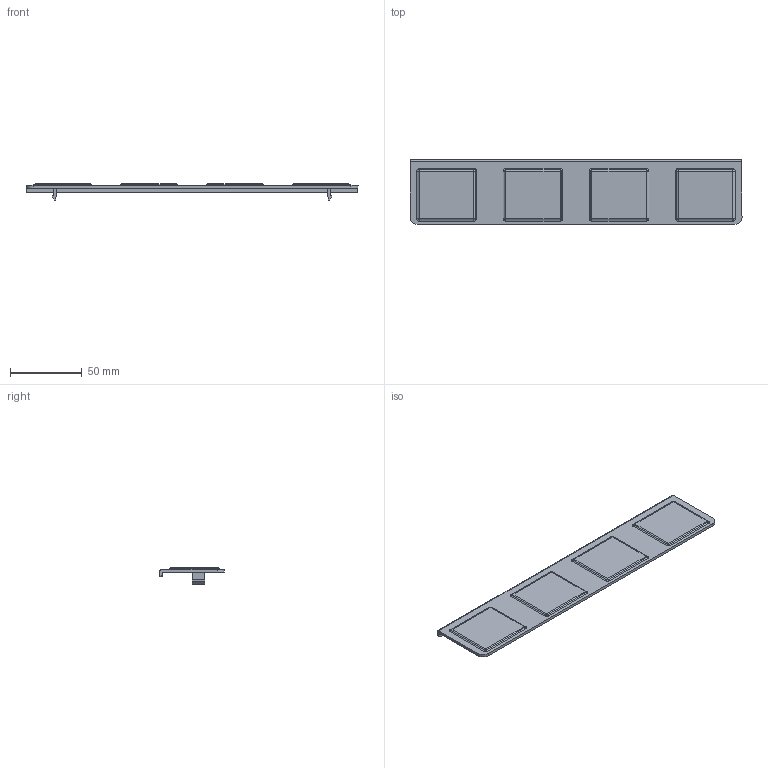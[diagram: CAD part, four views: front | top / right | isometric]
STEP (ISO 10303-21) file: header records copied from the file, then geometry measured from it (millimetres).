
FILE_DESCRIPTION (( 'STEP AP214' ), '1' );
FILE_NAME ('53005.STEP', '2021-08-11T05:56:48', ( '' ), ( '' ), 'SwSTEP 2.0', 'SolidWorks 2017', '' );
FILE_SCHEMA (( 'AUTOMOTIVE_DESIGN' ));
Length unit declared in the file: millimetre
Products named in the file (2): 53005
Bounding box: 231 x 45 x 11.2 mm (x, y, z)
Volume: 27912.3 mm3; surface area: 23771.8 mm2
Topology: 1 solids, 1 shells, 97 faces, 235 edges, 146 vertices
Faces by surface type: cylinder 37, plane 28, sphere 16, torus 16
Entity records: 2968 total; most frequent: CARTESIAN_POINT 640, DIRECTION 491, ORIENTED_EDGE 470, EDGE_CURVE 235, AXIS2_PLACEMENT_3D 189, VERTEX_POINT 146, LINE 113, VECTOR 113
